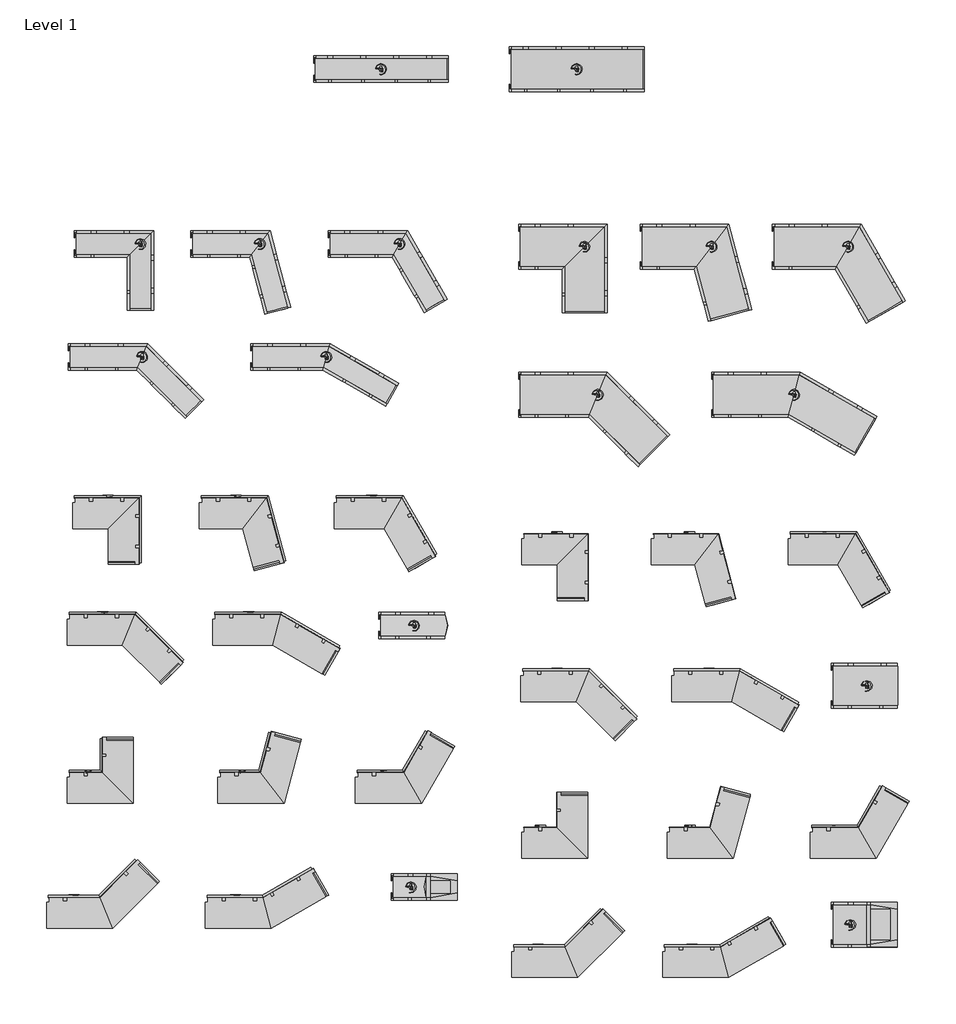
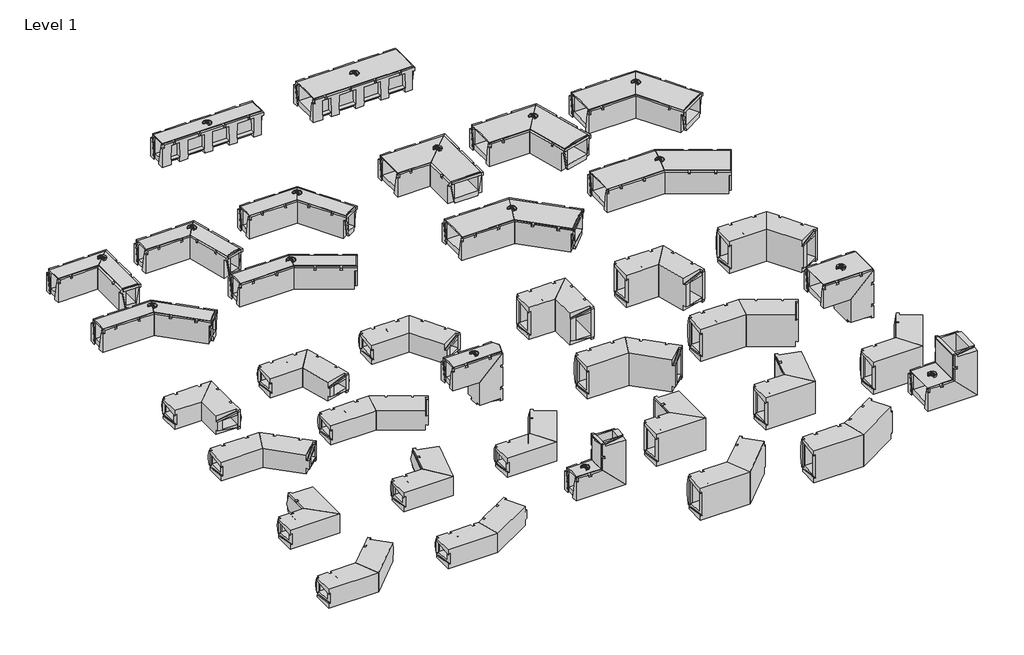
# One storey: 36 cable carrier fittings.
"""IFC4 building model written with IfcOpenShell, lengths in millimetres."""

from ifc_helpers import new_model, si_unit, origin, place, context, project, spatial, transform, mapped, element, save
from components import cable_carrier_fitting_8a8851dd, cable_carrier_fitting_28983398, cable_carrier_fitting_a2e915ad, cable_carrier_fitting_630ba067, cable_carrier_fitting_d8d9572d, cable_carrier_fitting_827e61d7, cable_carrier_fitting_f17cfeea, cable_carrier_fitting_d1a5fffa, cable_carrier_fitting_8de855c7, cable_carrier_fitting_e2ee2367, cable_carrier_fitting_05708309, cable_carrier_fitting_ffa84dba, cable_carrier_fitting_acea0d08, cable_carrier_fitting_f9ec4222, cable_carrier_fitting_3e882a55, cable_carrier_fitting_f048bf2b, cable_carrier_fitting_2b2a8202, cable_carrier_fitting_a0a97254, cable_carrier_fitting_81da3370, cable_carrier_fitting_fc5104e9, cable_carrier_fitting_4c6b5563, cable_carrier_fitting_c3dc4104, cable_carrier_fitting_d0668c8b, cable_carrier_fitting_0308b4ed, cable_carrier_fitting_b2b6a291, cable_carrier_fitting_a4ebeed9, cable_carrier_fitting_57f28d0a, cable_carrier_fitting_900310c0, cable_carrier_fitting_b14db237, cable_carrier_fitting_7e4accfe, cable_carrier_fitting_b5f44305, cable_carrier_fitting_ba2b0b58

model = new_model("IFC4")

# Units and contexts
model_context = context("Model", 3, world=origin())
ifc_project = project(units=[si_unit("LENGTHUNIT", "METRE", prefix="MILLI")], contexts=[model_context])

# Site, building, storey
site = spatial("IfcSite", under=ifc_project)
building = spatial("IfcBuilding", under=site)
storey = spatial("IfcBuildingStorey", under=building, Name="Level 1", Elevation=0.0)

# Cable carrier fittings
placement = place(None, origin())
cable_carrier_fitting_shape = cable_carrier_fitting_8a8851dd(model_context)
element("IfcCableCarrierFitting", 1, ObjectType="Evotray with cover : Evotray type 1", at=placement, inside=storey, context=model_context, shape_type="MappedRepresentation", body=[
    mapped(cable_carrier_fitting_shape, transform((-168.3249837, 781.0437029, 0.0), x_axis=(1.0, 0.0, 0.0), y_axis=(0.0, 1.0, 0.0), z_axis=(0.0, 0.0, 1.0))),
])
cable_carrier_fitting_2_shape = cable_carrier_fitting_28983398(model_context)
element("IfcCableCarrierFitting", 2, ObjectType="Evotray with cover : Evotray type 2", at=placement, inside=storey, context=model_context, shape_type="MappedRepresentation", body=[
    mapped(cable_carrier_fitting_2_shape, transform((1311.6750163, 781.0437029, 0.0), x_axis=(1.0, 0.0, 0.0), y_axis=(0.0, 1.0, 0.0), z_axis=(0.0, 0.0, 1.0))),
])
cable_carrier_fitting_3_shape = cable_carrier_fitting_a2e915ad(model_context)
element("IfcCableCarrierFitting", 3, ObjectType="Evotray type 1 horizontal bend : Evotray type 1 horizontal bend", at=placement, inside=storey, context=model_context, shape_type="MappedRepresentation", body=[
    mapped(cable_carrier_fitting_3_shape, transform((-1987.459418, -541.5424849, 0.0), x_axis=(1.0, 0.0, 0.0), y_axis=(0.0, 1.0, 0.0), z_axis=(0.0, 0.0, 1.0))),
])
cable_carrier_fitting_4_shape = cable_carrier_fitting_630ba067(model_context)
element("IfcCableCarrierFitting", 4, ObjectType="Evotray type 2 horizontal bend : Evotray type 2 horizontal bend", at=placement, inside=storey, context=model_context, shape_type="MappedRepresentation", body=[
    mapped(cable_carrier_fitting_4_shape, transform((1372.540582, -561.5424849, 0.0), x_axis=(1.0, 0.0, 0.0), y_axis=(0.0, 1.0, 0.0), z_axis=(0.0, 0.0, 1.0))),
])
cable_carrier_fitting_5_shape = cable_carrier_fitting_d8d9572d(model_context)
element("IfcCableCarrierFitting", 5, ObjectType="Evotray type 2 horizontal bend : Evotray type 2 horizontal bend", at=placement, inside=storey, context=model_context, shape_type="MappedRepresentation", body=[
    mapped(cable_carrier_fitting_5_shape, transform((2292.540582, -561.5424849, 0.0), x_axis=(1.0, 0.0, 0.0), y_axis=(0.0, 1.0, 0.0), z_axis=(0.0, 0.0, 1.0))),
])
cable_carrier_fitting_6_shape = cable_carrier_fitting_827e61d7(model_context)
element("IfcCableCarrierFitting", 6, ObjectType="Evotray type 2 horizontal bend : Evotray type 2 horizontal bend", at=placement, inside=storey, context=model_context, shape_type="MappedRepresentation", body=[
    mapped(cable_carrier_fitting_6_shape, transform((3292.540582, -561.5424849, 0.0), x_axis=(1.0, 0.0, 0.0), y_axis=(0.0, 1.0, 0.0), z_axis=(0.0, 0.0, 1.0))),
])
cable_carrier_fitting_7_shape = cable_carrier_fitting_f17cfeea(model_context)
element("IfcCableCarrierFitting", 7, ObjectType="Evotray type 2 horizontal bend : Evotray type 2 horizontal bend", at=placement, inside=storey, context=model_context, shape_type="MappedRepresentation", body=[
    mapped(cable_carrier_fitting_7_shape, transform((1372.540582, -1681.5424849, 0.0), x_axis=(1.0, 0.0, 0.0), y_axis=(0.0, 1.0, 0.0), z_axis=(0.0, 0.0, 1.0))),
])
cable_carrier_fitting_8_shape = cable_carrier_fitting_d1a5fffa(model_context)
element("IfcCableCarrierFitting", 8, ObjectType="Evotray type 2 horizontal bend : Evotray type 2 horizontal bend", at=placement, inside=storey, context=model_context, shape_type="MappedRepresentation", body=[
    mapped(cable_carrier_fitting_8_shape, transform((2832.540582, -1681.5424849, 0.0), x_axis=(1.0, 0.0, 0.0), y_axis=(0.0, 1.0, 0.0), z_axis=(0.0, 0.0, 1.0))),
])
cable_carrier_fitting_9_shape = cable_carrier_fitting_8de855c7(model_context)
element("IfcCableCarrierFitting", 9, ObjectType="Evotray type 1 horizontal bend : Evotray type 1 horizontal bend", at=placement, inside=storey, context=model_context, shape_type="MappedRepresentation", body=[
    mapped(cable_carrier_fitting_9_shape, transform((-1107.459418, -541.5424849, 0.0), x_axis=(1.0, 0.0, 0.0), y_axis=(0.0, 1.0, 0.0), z_axis=(0.0, 0.0, 1.0))),
])
cable_carrier_fitting_10_shape = cable_carrier_fitting_e2ee2367(model_context)
element("IfcCableCarrierFitting", 10, ObjectType="Evotray type 1 horizontal bend : Evotray type 1 horizontal bend", at=placement, inside=storey, context=model_context, shape_type="MappedRepresentation", body=[
    mapped(cable_carrier_fitting_10_shape, transform((-67.459418, -541.5424849, 0.0), x_axis=(1.0, 0.0, 0.0), y_axis=(0.0, 1.0, 0.0), z_axis=(0.0, 0.0, 1.0))),
])
cable_carrier_fitting_11_shape = cable_carrier_fitting_05708309(model_context)
element("IfcCableCarrierFitting", 11, ObjectType="Evotray type 1 horizontal bend : Evotray type 1 horizontal bend", at=placement, inside=storey, context=model_context, shape_type="MappedRepresentation", body=[
    mapped(cable_carrier_fitting_11_shape, transform((-2033.0891897, -1395.708463, 0.0), x_axis=(1.0, 0.0, 0.0), y_axis=(0.0, 1.0, 0.0), z_axis=(0.0, 0.0, 1.0))),
])
cable_carrier_fitting_12_shape = cable_carrier_fitting_ffa84dba(model_context)
element("IfcCableCarrierFitting", 12, ObjectType="Evotray type 1 horizontal bend : Evotray type 1 horizontal bend", at=placement, inside=storey, context=model_context, shape_type="MappedRepresentation", body=[
    mapped(cable_carrier_fitting_12_shape, transform((-653.0891897, -1395.708463, 0.0), x_axis=(1.0, 0.0, 0.0), y_axis=(0.0, 1.0, 0.0), z_axis=(0.0, 0.0, 1.0))),
])
cable_carrier_fitting_13_shape = cable_carrier_fitting_acea0d08(model_context)
element("IfcCableCarrierFitting", 13, ObjectType="Evotray type 1 vertical bend down : Evotray type 1 vertical bend down", at=placement, inside=storey, context=model_context, shape_type="MappedRepresentation", body=[
    mapped(cable_carrier_fitting_13_shape, transform((-2115.9319022, -2695.708463, 0.0), x_axis=(1.0, 0.0, 0.0), y_axis=(0.0, 0.0, -1.0), z_axis=(0.0, 1.0, 0.0))),
])
element("IfcCableCarrierFitting", 14, ObjectType="Evotray type 1 vertical bend down : Evotray type 1 vertical bend down", at=placement, inside=storey, context=model_context, shape_type="MappedRepresentation", body=[
    mapped(cable_carrier_fitting_13_shape, transform((199.941626, -3425.9011791, 0.0), x_axis=(1.0, 0.0, 0.0), y_axis=(0.0, 1.0, 0.0), z_axis=(0.0, 0.0, 1.0))),
])
cable_carrier_fitting_14_shape = cable_carrier_fitting_f9ec4222(model_context)
element("IfcCableCarrierFitting", 15, ObjectType="Evotray type 1 vertical bend down : Evotray type 1 vertical bend down", at=placement, inside=storey, context=model_context, shape_type="MappedRepresentation", body=[
    mapped(cable_carrier_fitting_14_shape, transform((-1155.9319022, -2695.708463, 0.0), x_axis=(1.0, 0.0, 0.0), y_axis=(0.0, 0.0, -1.0), z_axis=(0.0, 1.0, 0.0))),
])
cable_carrier_fitting_15_shape = cable_carrier_fitting_3e882a55(model_context)
element("IfcCableCarrierFitting", 16, ObjectType="Evotray type 1 vertical bend down : Evotray type 1 vertical bend down", at=placement, inside=storey, context=model_context, shape_type="MappedRepresentation", body=[
    mapped(cable_carrier_fitting_15_shape, transform((-135.9319022, -2695.708463, 0.0), x_axis=(1.0, 0.0, 0.0), y_axis=(0.0, 0.0, -1.0), z_axis=(0.0, 1.0, 0.0))),
])
cable_carrier_fitting_16_shape = cable_carrier_fitting_f048bf2b(model_context)
element("IfcCableCarrierFitting", 17, ObjectType="Evotray type 1 vertical bend down : Evotray type 1 vertical bend down", at=placement, inside=storey, context=model_context, shape_type="MappedRepresentation", body=[
    mapped(cable_carrier_fitting_16_shape, transform((-2155.9319022, -3576.8217634, 0.0), x_axis=(1.0, 0.0, 0.0), y_axis=(0.0, 0.0, -1.0), z_axis=(0.0, 1.0, 0.0))),
])
cable_carrier_fitting_17_shape = cable_carrier_fitting_2b2a8202(model_context)
element("IfcCableCarrierFitting", 18, ObjectType="Evotray type 1 vertical bend down : Evotray type 1 vertical bend down", at=placement, inside=storey, context=model_context, shape_type="MappedRepresentation", body=[
    mapped(cable_carrier_fitting_17_shape, transform((-1055.9319022, -3576.8217634, 0.0), x_axis=(1.0, 0.0, 0.0), y_axis=(0.0, 0.0, -1.0), z_axis=(0.0, 1.0, 0.0))),
])
cable_carrier_fitting_18_shape = cable_carrier_fitting_a0a97254(model_context)
element("IfcCableCarrierFitting", 19, ObjectType="Evotray type 1 vertical bend up : Evotray type 1 vertical bend up", at=placement, inside=storey, context=model_context, shape_type="MappedRepresentation", body=[
    mapped(cable_carrier_fitting_18_shape, transform((-2155.9319022, -4772.1979411, 0.0), x_axis=(1.0, 0.0, 0.0), y_axis=(0.0, 0.0, -1.0), z_axis=(0.0, 1.0, 0.0))),
])
element("IfcCableCarrierFitting", 20, ObjectType="Evotray type 1 vertical bend up : Evotray type 1 vertical bend up", at=placement, inside=storey, context=model_context, shape_type="MappedRepresentation", body=[
    mapped(cable_carrier_fitting_18_shape, transform((294.7461197, -5404.8677802, 0.0), x_axis=(1.0, 0.0, 0.0), y_axis=(0.0, 1.0, 0.0), z_axis=(0.0, 0.0, 1.0))),
])
cable_carrier_fitting_19_shape = cable_carrier_fitting_81da3370(model_context)
element("IfcCableCarrierFitting", 21, ObjectType="Evotray type 1 vertical bend up : Evotray type 1 vertical bend up", at=placement, inside=storey, context=model_context, shape_type="MappedRepresentation", body=[
    mapped(cable_carrier_fitting_19_shape, transform((-1015.9319022, -4772.1979411, 0.0), x_axis=(1.0, 0.0, 0.0), y_axis=(0.0, 0.0, -1.0), z_axis=(0.0, 1.0, 0.0))),
])
cable_carrier_fitting_20_shape = cable_carrier_fitting_fc5104e9(model_context)
element("IfcCableCarrierFitting", 22, ObjectType="Evotray type 1 vertical bend up : Evotray type 1 vertical bend up", at=placement, inside=storey, context=model_context, shape_type="MappedRepresentation", body=[
    mapped(cable_carrier_fitting_20_shape, transform((24.0680978, -4772.1979411, 0.0), x_axis=(1.0, 0.0, 0.0), y_axis=(0.0, 0.0, -1.0), z_axis=(0.0, 1.0, 0.0))),
])
cable_carrier_fitting_21_shape = cable_carrier_fitting_4c6b5563(model_context)
element("IfcCableCarrierFitting", 23, ObjectType="Evotray type 1 vertical bend up : Evotray type 1 vertical bend up", at=placement, inside=storey, context=model_context, shape_type="MappedRepresentation", body=[
    mapped(cable_carrier_fitting_21_shape, transform((-2312.4352157, -5716.2065565, 0.0), x_axis=(1.0, 0.0, 0.0), y_axis=(0.0, 0.0, -1.0), z_axis=(0.0, 1.0, 0.0))),
])
cable_carrier_fitting_22_shape = cable_carrier_fitting_c3dc4104(model_context)
element("IfcCableCarrierFitting", 24, ObjectType="Evotray type 1 vertical bend up : Evotray type 1 vertical bend up", at=placement, inside=storey, context=model_context, shape_type="MappedRepresentation", body=[
    mapped(cable_carrier_fitting_22_shape, transform((-1112.4352157, -5716.2065565, 0.0), x_axis=(1.0, 0.0, 0.0), y_axis=(0.0, 0.0, -1.0), z_axis=(0.0, 1.0, 0.0))),
])
cable_carrier_fitting_23_shape = cable_carrier_fitting_d0668c8b(model_context)
element("IfcCableCarrierFitting", 25, ObjectType="Evotray type 2 vertical bend down : Evotray type 2 vertical bend down", at=placement, inside=storey, context=model_context, shape_type="MappedRepresentation", body=[
    mapped(cable_carrier_fitting_23_shape, transform((3622.9313856, -3881.7907254, 0.0), x_axis=(1.0, 0.0, 0.0), y_axis=(0.0, 1.0, 0.0), z_axis=(0.0, 0.0, 1.0))),
])
element("IfcCableCarrierFitting", 26, ObjectType="Evotray type 2 vertical bend down : Evotray type 2 vertical bend down", at=placement, inside=storey, context=model_context, shape_type="MappedRepresentation", body=[
    mapped(cable_carrier_fitting_23_shape, transform((1281.7079708, -2968.9492224, 0.0), x_axis=(1.0, 0.0, 0.0), y_axis=(0.0, 0.0, -1.0), z_axis=(0.0, 1.0, 0.0))),
])
cable_carrier_fitting_24_shape = cable_carrier_fitting_0308b4ed(model_context)
element("IfcCableCarrierFitting", 27, ObjectType="Evotray type 2 vertical bend down : Evotray type 2 vertical bend down", at=placement, inside=storey, context=model_context, shape_type="MappedRepresentation", body=[
    mapped(cable_carrier_fitting_24_shape, transform((2261.7079708, -2968.9492224, 0.0), x_axis=(1.0, 0.0, 0.0), y_axis=(0.0, 0.0, -1.0), z_axis=(0.0, 1.0, 0.0))),
])
cable_carrier_fitting_25_shape = cable_carrier_fitting_b2b6a291(model_context)
element("IfcCableCarrierFitting", 28, ObjectType="Evotray type 2 vertical bend down : Evotray type 2 vertical bend down", at=placement, inside=storey, context=model_context, shape_type="MappedRepresentation", body=[
    mapped(cable_carrier_fitting_25_shape, transform((3296.4378566, -2968.9492224, 0.0), x_axis=(1.0, 0.0, 0.0), y_axis=(0.0, 0.0, -1.0), z_axis=(0.0, 1.0, 0.0))),
])
cable_carrier_fitting_26_shape = cable_carrier_fitting_a4ebeed9(model_context)
element("IfcCableCarrierFitting", 29, ObjectType="Evotray type 2 vertical bend down : Evotray type 2 vertical bend down", at=placement, inside=storey, context=model_context, shape_type="MappedRepresentation", body=[
    mapped(cable_carrier_fitting_26_shape, transform((1275.2839073, -4003.5051288, 0.0), x_axis=(1.0, 0.0, 0.0), y_axis=(0.0, 0.0, -1.0), z_axis=(0.0, 1.0, 0.0))),
])
cable_carrier_fitting_27_shape = cable_carrier_fitting_57f28d0a(model_context)
element("IfcCableCarrierFitting", 30, ObjectType="Evotray type 2 vertical bend down : Evotray type 2 vertical bend down", at=placement, inside=storey, context=model_context, shape_type="MappedRepresentation", body=[
    mapped(cable_carrier_fitting_27_shape, transform((2415.2839073, -4003.5051288, 0.0), x_axis=(1.0, 0.0, 0.0), y_axis=(0.0, 0.0, -1.0), z_axis=(0.0, 1.0, 0.0))),
])
cable_carrier_fitting_28_shape = cable_carrier_fitting_900310c0(model_context)
element("IfcCableCarrierFitting", 31, ObjectType="Evotray type 2 vertical bend up : Evotray type 2 vertical bend up", at=placement, inside=storey, context=model_context, shape_type="MappedRepresentation", body=[
    mapped(cable_carrier_fitting_28_shape, transform((3622.9313856, -5688.9492224, 0.0), x_axis=(1.0, 0.0, 0.0), y_axis=(0.0, 1.0, 0.0), z_axis=(0.0, 0.0, 1.0))),
])
element("IfcCableCarrierFitting", 32, ObjectType="Evotray type 2 vertical bend up : Evotray type 2 vertical bend up", at=placement, inside=storey, context=model_context, shape_type="MappedRepresentation", body=[
    mapped(cable_carrier_fitting_28_shape, transform((1281.7079708, -5188.3419356, 0.0), x_axis=(1.0, 0.0, 0.0), y_axis=(0.0, 0.0, -1.0), z_axis=(0.0, 1.0, 0.0))),
])
cable_carrier_fitting_29_shape = cable_carrier_fitting_b14db237(model_context)
element("IfcCableCarrierFitting", 33, ObjectType="Evotray type 2 vertical bend up : Evotray type 2 vertical bend up", at=placement, inside=storey, context=model_context, shape_type="MappedRepresentation", body=[
    mapped(cable_carrier_fitting_29_shape, transform((2381.7079708, -5188.3419356, 0.0), x_axis=(1.0, 0.0, 0.0), y_axis=(0.0, 0.0, -1.0), z_axis=(0.0, 1.0, 0.0))),
])
cable_carrier_fitting_30_shape = cable_carrier_fitting_7e4accfe(model_context)
element("IfcCableCarrierFitting", 34, ObjectType="Evotray type 2 vertical bend up : Evotray type 2 vertical bend up", at=placement, inside=storey, context=model_context, shape_type="MappedRepresentation", body=[
    mapped(cable_carrier_fitting_30_shape, transform((3461.7079708, -5188.3419356, 0.0), x_axis=(1.0, 0.0, 0.0), y_axis=(0.0, 0.0, -1.0), z_axis=(0.0, 1.0, 0.0))),
])
cable_carrier_fitting_31_shape = cable_carrier_fitting_b5f44305(model_context)
element("IfcCableCarrierFitting", 35, ObjectType="Evotray type 2 vertical bend up : Evotray type 2 vertical bend up", at=placement, inside=storey, context=model_context, shape_type="MappedRepresentation", body=[
    mapped(cable_carrier_fitting_31_shape, transform((1206.4456809, -6089.1902796, 0.0), x_axis=(1.0, 0.0, 0.0), y_axis=(0.0, 0.0, -1.0), z_axis=(0.0, 1.0, 0.0))),
])
cable_carrier_fitting_32_shape = cable_carrier_fitting_ba2b0b58(model_context)
element("IfcCableCarrierFitting", 36, ObjectType="Evotray type 2 vertical bend up : Evotray type 2 vertical bend up", at=placement, inside=storey, context=model_context, shape_type="MappedRepresentation", body=[
    mapped(cable_carrier_fitting_32_shape, transform((2346.4456809, -6089.1902796, 0.0), x_axis=(1.0, 0.0, 0.0), y_axis=(0.0, 0.0, -1.0), z_axis=(0.0, 1.0, 0.0))),
])

save(model, "model.ifc")
